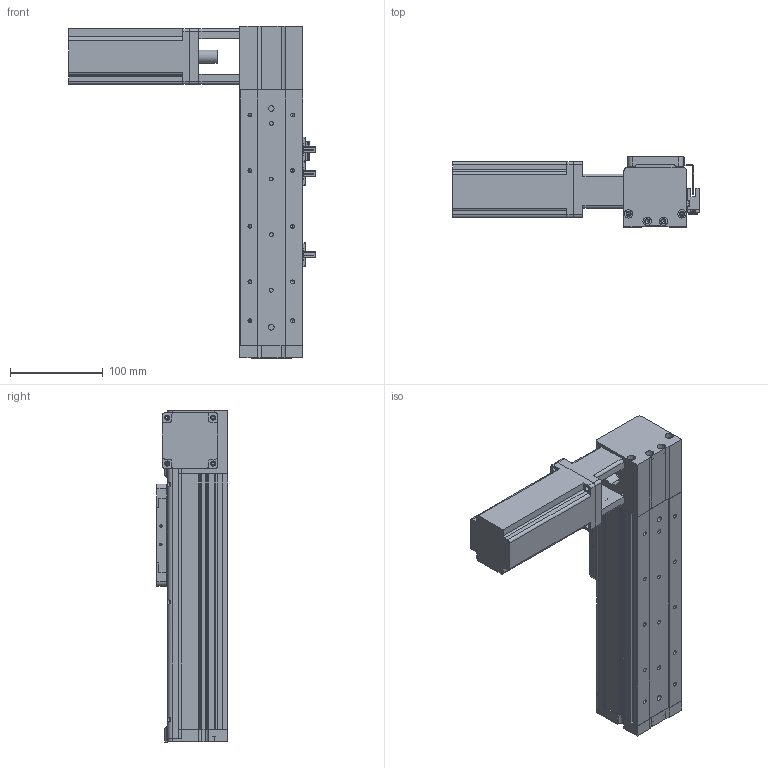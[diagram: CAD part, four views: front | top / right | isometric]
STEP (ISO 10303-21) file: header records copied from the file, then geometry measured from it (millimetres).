
FILE_DESCRIPTION (( 'STEP AP214' ), '1' );
FILE_NAME ('KSD68BS-S100-MLT-CR.STEP', '2019-08-28T03:12:02', ( '微软用户' ), ( '微软中国' ), 'SwSTEP 2.0', 'SolidWorks 2014', '' );
FILE_SCHEMA (( 'AUTOMOTIVE_DESIGN' ));
Length unit declared in the file: millimetre
Products named in the file (13): 68宽单导轨全封闭同步带端板; 68单导轨全封闭同步带电机座右; 68单导轨全封闭同步带安装板; 感应片68宽全封闭; U倰嫖萇EEㄜSX672; 台达ECMA－C20604AS伺服电机（400W); KSD68BS 100行程底板全封闭; KSD68BS-S100-MLT-CR; 100遵鎮湛假蚾啣1; KSD68BS 100行程盖板全封闭; 68遵裔啣揤啣1; 68宽单导轨全封闭丝杆传动安装板1防护罩; KSD68BS 100行程侧板全封闭
Assembly tree (16 placements, depth 2):
  KSD68BS-S100-MLT-CR
    KSD68BS 100行程底板全封闭
    台达ECMA－C20604AS伺服电机（400W)
    U倰嫖萇EEㄜSX672  x3
    感应片68宽全封闭
    68单导轨全封闭同步带安装板
    68单导轨全封闭同步带电机座右
    68宽单导轨全封闭同步带端板
    KSD68BS 100行程侧板全封闭  x2
    68宽单导轨全封闭丝杆传动安装板1防护罩
    68遵裔啣揤啣1  x2
    KSD68BS 100行程盖板全封闭
    100遵鎮湛假蚾啣1
Bounding box: 266.4 x 77 x 358.1 mm (x, y, z)
Volume: 1273080.9 mm3; surface area: 361940.3 mm2
Topology: 17 solids, 17 shells, 1306 faces, 3674 edges, 2359 vertices
Faces by surface type: plane 596, cylinder 578, cone 132
Entity records: 40165 total; most frequent: CARTESIAN_POINT 6695, DIRECTION 6030, ORIENTED_EDGE 5784, EDGE_CURVE 2892, AXIS2_PLACEMENT_3D 2140, VERTEX_POINT 1897, LINE 1750, VECTOR 1750
